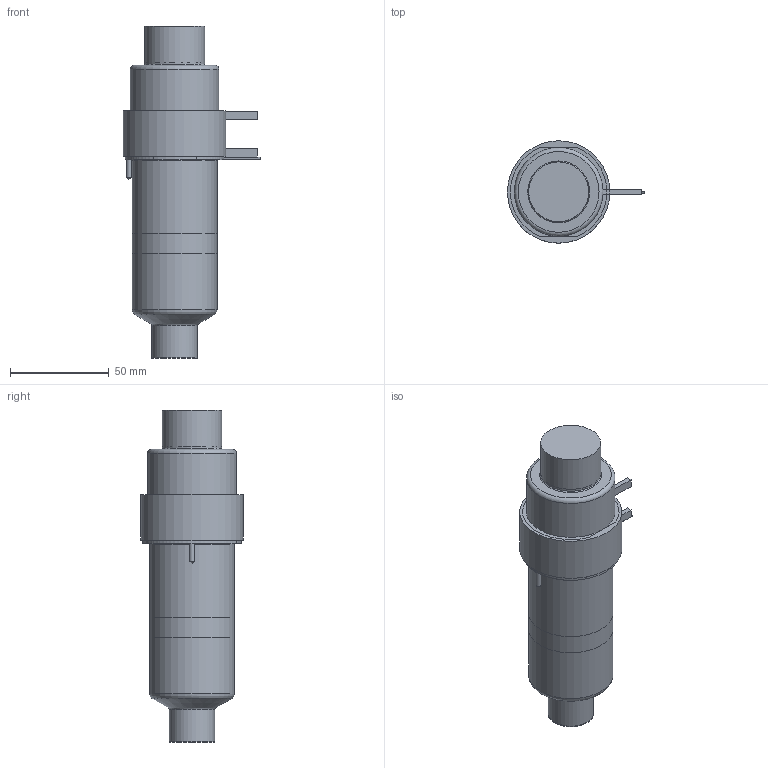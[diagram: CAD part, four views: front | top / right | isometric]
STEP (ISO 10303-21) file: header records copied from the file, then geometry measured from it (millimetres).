
FILE_DESCRIPTION(/* description */ (''),/* implementation_level */ '2;1');
FILE_NAME(/* name */ 'SXTSN-SXISN-SXOSN27095_250C_b',/* time_stamp */ '2007-01-24T17:17:55+13:00',/* author */ (''),/* organization */ (''),/* preprocessor_version */ 'ST-DEVELOPER v9',/* originating_system */ 'UGS - NX 4.0',/* authorisation */ '');
FILE_SCHEMA (('CONFIG_CONTROL_DESIGN'));
Length unit declared in the file: millimetre
Products named in the file (1): SXTSN-SXISN-SXOSN27095_250C_b
Bounding box: 69.6 x 52 x 168.53 mm (x, y, z)
Volume: 411693.9 mm3; surface area: 52631.9 mm2
Topology: 7 solids, 7 shells, 92 faces, 181 edges, 117 vertices
Faces by surface type: plane 43, cylinder 28, cone 10, torus 10, bspline 1
Full cylindrical faces by diameter (mm): 1 x3, 2 x1, 2.5 x2, 12 x1, 22.61 x1, 23.01 x2, 27.5 x1, 30 x1, 30.4 x1, 38.1 x2, 43 x2, 45 x1, 50 x1, 52 x1
Entity records: 2377 total; most frequent: CARTESIAN_POINT 543, DIRECTION 384, ORIENTED_EDGE 278, AXIS2_PLACEMENT_3D 167, EDGE_LOOP 140, EDGE_CURVE 139, VERTEX_POINT 110, ADVANCED_FACE 92
